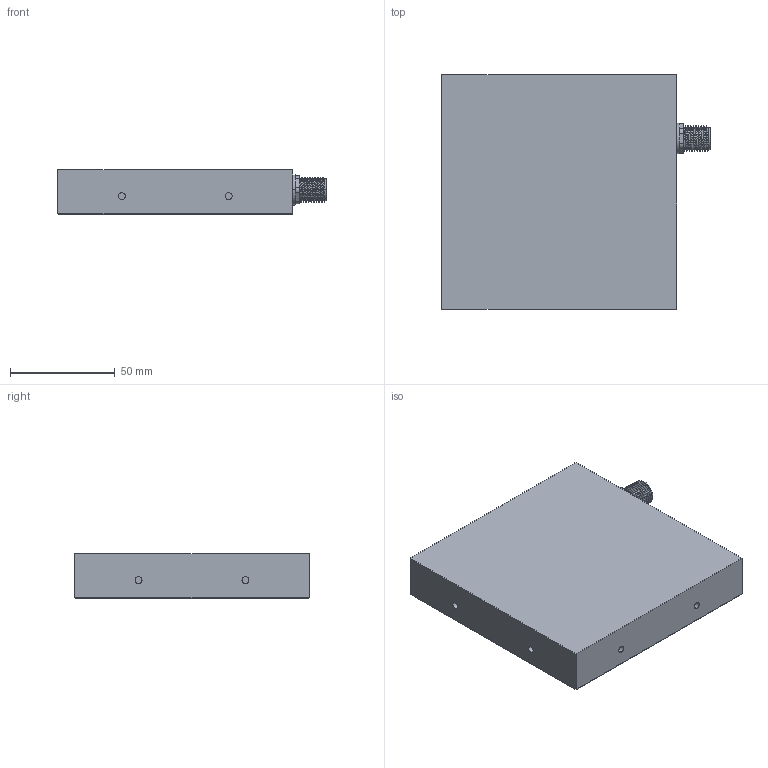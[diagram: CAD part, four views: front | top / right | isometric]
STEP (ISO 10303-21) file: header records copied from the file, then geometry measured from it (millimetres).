
FILE_DESCRIPTION (( 'STEP AP214' ), '1' );
FILE_NAME ('CSBACKII-xxxx-xxx_CLIENT1010.STEP', '2022-04-01T09:18:30', ( '' ), ( '' ), 'SwSTEP 2.0', 'SolidWorks 2020', '' );
FILE_SCHEMA (( 'AUTOMOTIVE_DESIGN' ));
Length unit declared in the file: millimetre
Products named in the file (1): CSBACKII-xxxx-xxx_CLIENT1010
Bounding box: 128 x 112 x 21.06 mm (x, y, z)
Volume: 265148.5 mm3; surface area: 36159.9 mm2
Topology: 1 solids, 2 shells, 316 faces, 795 edges, 522 vertices
Faces by surface type: plane 168, bspline 83, cylinder 57, torus 8
Entity records: 14994 total; most frequent: CARTESIAN_POINT 7963, ORIENTED_EDGE 1590, DIRECTION 1171, EDGE_CURVE 795, VERTEX_POINT 522, LINE 471, VECTOR 471, EDGE_LOOP 355
